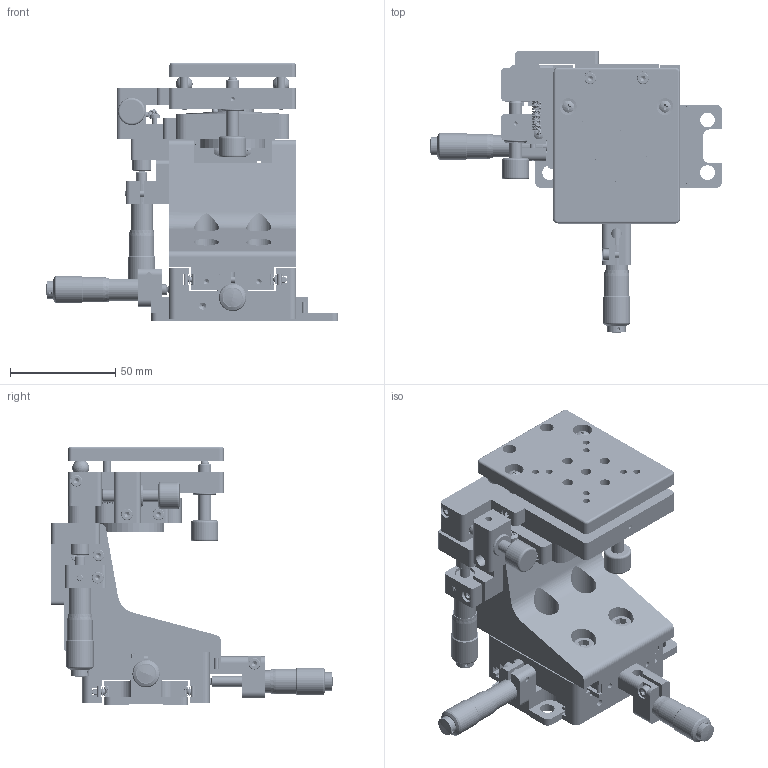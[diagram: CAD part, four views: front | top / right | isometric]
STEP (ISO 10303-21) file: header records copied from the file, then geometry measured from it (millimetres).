
FILE_DESCRIPTION (( 'STEP AP203' ), '1' );
FILE_NAME ('7SWM0501五维位移台(右手型).STEP', '2021-11-26T09:00:02', ( '' ), ( '' ), 'SwSTEP 2.0', 'SolidWorks 2018', '' );
FILE_SCHEMA (( 'CONFIG_CONTROL_DESIGN' ));
Length unit declared in the file: millimetre
Products named in the file (1): 7SWM0501五维位移台(右手型)
Bounding box: 138.9 x 133.87 x 122.85 mm (x, y, z)
Volume: 332824.2 mm3; surface area: 184838.6 mm2
Topology: 203 solids, 203 shells, 3422 faces, 8338 edges, 5199 vertices
Faces by surface type: plane 1273, cylinder 1232, cone 615, sphere 144, torus 116, bspline 42
Entity records: 155990 total; most frequent: CARTESIAN_POINT 74925, DIRECTION 18197, ORIENTED_EDGE 15826, EDGE_CURVE 7913, AXIS2_PLACEMENT_3D 7240, VERTEX_POINT 5052, EDGE_LOOP 4043, CIRCLE 3859
